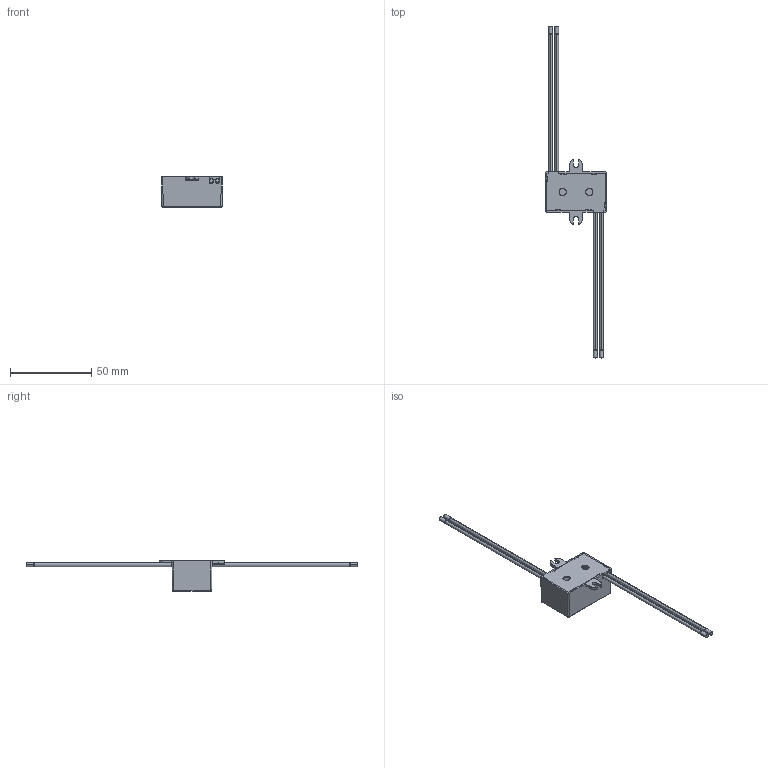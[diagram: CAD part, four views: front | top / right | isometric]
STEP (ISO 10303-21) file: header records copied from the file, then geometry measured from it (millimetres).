
FILE_DESCRIPTION (( 'STEP AP214' ), '1' );
FILE_NAME ('RAC04NE-SK_277_W_3D.STEP', '2024-08-01T11:30:30', ( '' ), ( '' ), 'SwSTEP 2.0', 'SolidWorks 2024', '' );
FILE_SCHEMA (( 'AUTOMOTIVE_DESIGN' ));
Length unit declared in the file: millimetre
Products named in the file (1): RAC04NE-SK_277_W_3D
Bounding box: 37.81 x 204.82 x 18.7 mm (x, y, z)
Volume: 6149.5 mm3; surface area: 11078.7 mm2
Topology: 6 solids, 6 shells, 424 faces, 1098 edges, 705 vertices
Faces by surface type: plane 283, cylinder 92, bspline 23, torus 14, cone 8, sphere 4
Entity records: 19353 total; most frequent: CARTESIAN_POINT 4354, ORIENTED_EDGE 2196, DIRECTION 2002, EDGE_CURVE 1098, LINE 826, VECTOR 826, VERTEX_POINT 705, AXIS2_PLACEMENT_3D 588
